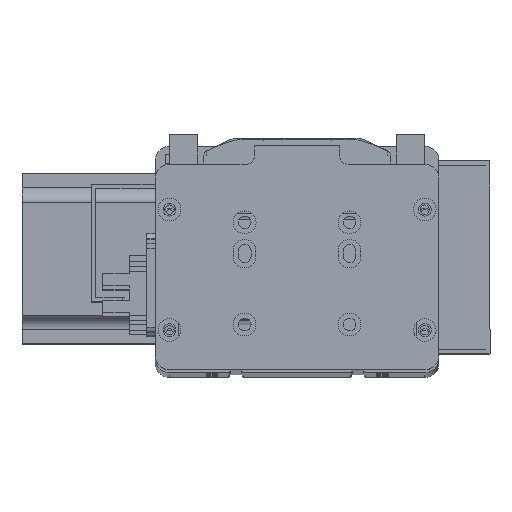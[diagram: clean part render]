
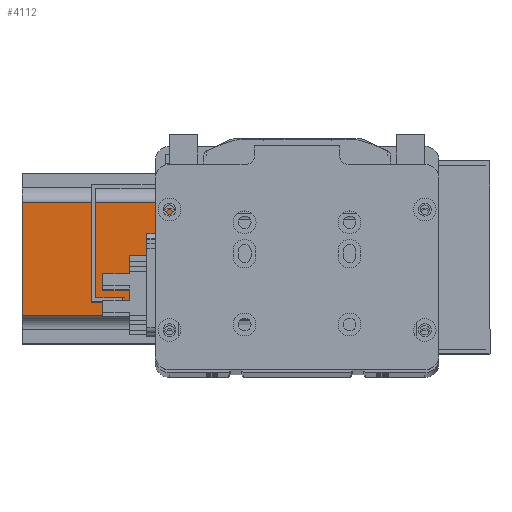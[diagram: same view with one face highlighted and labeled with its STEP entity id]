
A CAD part, top view. The second image highlights one B-rep face of the part: STEP entity #4112.
In plain terms, the highlighted planar face has unit normal (0, 0, 1).
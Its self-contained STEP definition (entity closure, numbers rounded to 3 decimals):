
#3960 = EDGE_CURVE ( 'NONE', #4093, #4122, #14480, .T. ) ;
#3961 = ORIENTED_EDGE ( 'NONE', *, *, #4097, .F. ) ;
#3962 = ORIENTED_EDGE ( 'NONE', *, *, #4137, .F. ) ;
#3963 = ORIENTED_EDGE ( 'NONE', *, *, #3980, .T. ) ;
#3977 = VERTEX_POINT ( 'NONE', #14457 ) ;
#3980 = EDGE_CURVE ( 'NONE', #4006, #3977, #14455, .T. ) ;
#3999 = VERTEX_POINT ( 'NONE', #14413 ) ;
#4006 = VERTEX_POINT ( 'NONE', #14407 ) ;
#4093 = VERTEX_POINT ( 'NONE', #14678 ) ;
#4097 = EDGE_CURVE ( 'NONE', #3999, #4093, #14677, .T. ) ;
#4103 = VERTEX_POINT ( 'NONE', #14661 ) ;
#4109 = VERTEX_POINT ( 'NONE', #14648 ) ;
#4111 = EDGE_CURVE ( 'NONE', #4103, #4109, #14647, .T. ) ;
#4112 = ADVANCED_FACE ( 'NONE', ( #14643 ), #14642, .T. ) ;
#4113 = EDGE_LOOP ( 'NONE', ( #4114, #4116, #4117, #4120, #4123, #3961, #3962, #3963 ) ) ;
#4114 = ORIENTED_EDGE ( 'NONE', *, *, #4115, .T. ) ;
#4115 = EDGE_CURVE ( 'NONE', #3977, #4103, #14637, .T. ) ;
#4116 = ORIENTED_EDGE ( 'NONE', *, *, #4111, .T. ) ;
#4117 = ORIENTED_EDGE ( 'NONE', *, *, #4118, .T. ) ;
#4118 = EDGE_CURVE ( 'NONE', #4109, #4119, #14633, .T. ) ;
#4119 = VERTEX_POINT ( 'NONE', #14628 ) ;
#4120 = ORIENTED_EDGE ( 'NONE', *, *, #4121, .T. ) ;
#4121 = EDGE_CURVE ( 'NONE', #4119, #4122, #14629, .T. ) ;
#4122 = VERTEX_POINT ( 'NONE', #14716 ) ;
#4123 = ORIENTED_EDGE ( 'NONE', *, *, #3960, .F. ) ;
#4137 = EDGE_CURVE ( 'NONE', #4006, #3999, #14692, .T. ) ;
#14407 = CARTESIAN_POINT ( 'NONE',  ( 18.591, 15.562, -229. ) ) ;
#14413 = CARTESIAN_POINT ( 'NONE',  ( 18.591, 20.562, -229. ) ) ;
#14452 = DIRECTION ( 'NONE',  ( 1., 0., 0. ) ) ;
#14453 = VECTOR ( 'NONE', #14452, 1000. ) ;
#14454 = CARTESIAN_POINT ( 'NONE',  ( 25.591, 15.562, -229. ) ) ;
#14455 = LINE ( 'NONE', #14454, #14453 ) ;
#14457 = CARTESIAN_POINT ( 'NONE',  ( 25.591, 15.562, -229. ) ) ;
#14477 = DIRECTION ( 'NONE',  ( 0., 1., 0. ) ) ;
#14478 = VECTOR ( 'NONE', #14477, 1000. ) ;
#14479 = CARTESIAN_POINT ( 'NONE',  ( -99.409, 10.562, -229. ) ) ;
#14480 = LINE ( 'NONE', #14479, #14478 ) ;
#14628 = CARTESIAN_POINT ( 'NONE',  ( 18.591, 60.562, -229. ) ) ;
#14629 = LINE ( 'NONE', #14719, #14718 ) ;
#14630 = DIRECTION ( 'NONE',  ( 0., -1., 0. ) ) ;
#14631 = VECTOR ( 'NONE', #14630, 1000. ) ;
#14632 = CARTESIAN_POINT ( 'NONE',  ( 18.591, 70.562, -229. ) ) ;
#14633 = LINE ( 'NONE', #14632, #14631 ) ;
#14634 = DIRECTION ( 'NONE',  ( 0., 1., 0. ) ) ;
#14635 = VECTOR ( 'NONE', #14634, 1000. ) ;
#14636 = CARTESIAN_POINT ( 'NONE',  ( 25.591, 10.562, -229. ) ) ;
#14637 = LINE ( 'NONE', #14636, #14635 ) ;
#14638 = DIRECTION ( 'NONE',  ( 0., -1., 0. ) ) ;
#14639 = DIRECTION ( 'NONE',  ( 0., 0., 1. ) ) ;
#14640 = CARTESIAN_POINT ( 'NONE',  ( 25.591, 10.562, -229. ) ) ;
#14641 = AXIS2_PLACEMENT_3D ( 'NONE', #14640, #14639, #14638 ) ;
#14642 = PLANE ( 'NONE',  #14641 ) ;
#14643 = FACE_OUTER_BOUND ( 'NONE', #4113, .T. ) ;
#14644 = DIRECTION ( 'NONE',  ( -1., 0., 0. ) ) ;
#14645 = VECTOR ( 'NONE', #14644, 1000. ) ;
#14646 = CARTESIAN_POINT ( 'NONE',  ( 18.591, 65.562, -229. ) ) ;
#14647 = LINE ( 'NONE', #14646, #14645 ) ;
#14648 = CARTESIAN_POINT ( 'NONE',  ( 18.591, 65.562, -229. ) ) ;
#14661 = CARTESIAN_POINT ( 'NONE',  ( 25.591, 65.562, -229. ) ) ;
#14674 = DIRECTION ( 'NONE',  ( -1., 0., 0. ) ) ;
#14675 = VECTOR ( 'NONE', #14674, 1000. ) ;
#14676 = CARTESIAN_POINT ( 'NONE',  ( 18.591, 20.562, -229. ) ) ;
#14677 = LINE ( 'NONE', #14676, #14675 ) ;
#14678 = CARTESIAN_POINT ( 'NONE',  ( -99.409, 20.562, -229. ) ) ;
#14689 = DIRECTION ( 'NONE',  ( 0., 1., 0. ) ) ;
#14690 = VECTOR ( 'NONE', #14689, 1000. ) ;
#14691 = CARTESIAN_POINT ( 'NONE',  ( 18.591, 10.562, -229. ) ) ;
#14692 = LINE ( 'NONE', #14691, #14690 ) ;
#14716 = CARTESIAN_POINT ( 'NONE',  ( -99.409, 60.562, -229. ) ) ;
#14717 = DIRECTION ( 'NONE',  ( -1., 0., 0. ) ) ;
#14718 = VECTOR ( 'NONE', #14717, 1000. ) ;
#14719 = CARTESIAN_POINT ( 'NONE',  ( 18.591, 60.562, -229. ) ) ;
